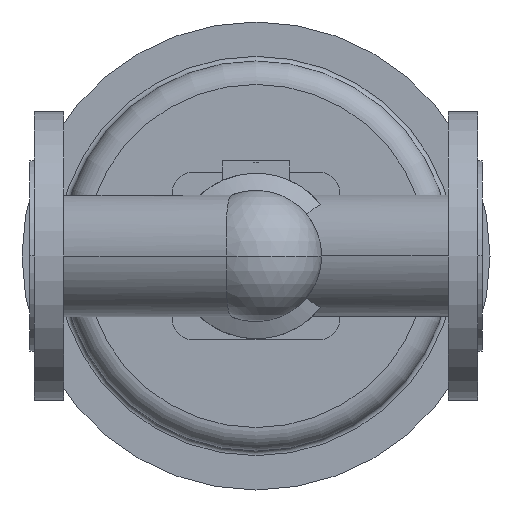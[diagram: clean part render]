
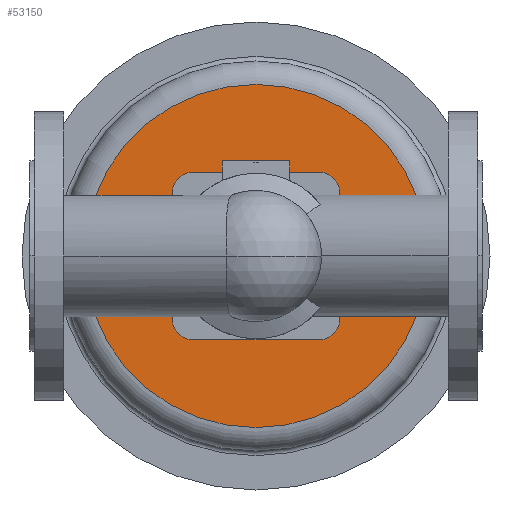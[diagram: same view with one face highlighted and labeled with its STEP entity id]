
A CAD part, front view. The second image highlights one B-rep face of the part: STEP entity #53150.
In plain terms, the highlighted planar face has unit normal (0, -1, 0).
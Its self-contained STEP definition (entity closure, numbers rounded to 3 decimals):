
#39520=CARTESIAN_POINT('',(255.,382.,0.));
#39530=VERTEX_POINT('',#39520);
#39620=CARTESIAN_POINT('',(35.,382.,0.));
#39630=VERTEX_POINT('',#39620);
#39660=CARTESIAN_POINT('',(145.,382.,0.));
#39670=DIRECTION('',(0.,1.,0.));
#39680=DIRECTION('',(1.,0.,0.));
#39690=AXIS2_PLACEMENT_3D('',#39660,#39670,#39680);
#39700=CIRCLE('',#39690,110.);
#39710=CARTESIAN_POINT('',(145.,382.,-110.));
#39720=VERTEX_POINT('',#39710);
#39730=EDGE_CURVE('',#39720,#39630,#39700,.T.);
#39750=EDGE_CURVE('',#39530,#39720,#39700,.T.);
#40330=CARTESIAN_POINT('',(210.,382.,0.));
#40340=VERTEX_POINT('',#40330);
#40370=CARTESIAN_POINT('',(195.,382.,0.));
#40380=DIRECTION('',(0.,1.,0.));
#40390=DIRECTION('',(1.,0.,0.));
#40400=AXIS2_PLACEMENT_3D('',#40370,#40380,#40390);
#40410=CIRCLE('',#40400,15.);
#40420=CARTESIAN_POINT('',(180.,382.,0.));
#40430=VERTEX_POINT('',#40420);
#40440=EDGE_CURVE('',#40340,#40430,#40410,.T.);
#40750=CARTESIAN_POINT('',(80.,382.,0.));
#40760=VERTEX_POINT('',#40750);
#40790=CARTESIAN_POINT('',(95.,382.,0.));
#40800=DIRECTION('',(0.,1.,0.));
#40810=DIRECTION('',(1.,0.,0.));
#40820=AXIS2_PLACEMENT_3D('',#40790,#40800,#40810);
#40830=CIRCLE('',#40820,15.);
#40840=CARTESIAN_POINT('',(110.,382.,0.));
#40850=VERTEX_POINT('',#40840);
#40860=EDGE_CURVE('',#40760,#40850,#40830,.T.);
#41150=CARTESIAN_POINT('',(126.55,382.,0.));
#41160=VERTEX_POINT('',#41150);
#41210=CARTESIAN_POINT('',(145.,382.,0.));
#41220=DIRECTION('',(0.,1.,0.));
#41230=DIRECTION('',(1.,0.,0.));
#41240=AXIS2_PLACEMENT_3D('',#41210,#41220,#41230);
#41250=CIRCLE('',#41240,18.45);
#41260=CARTESIAN_POINT('',(163.45,382.,0.));
#41270=VERTEX_POINT('',#41260);
#41280=EDGE_CURVE('',#41160,#41270,#41250,.T.);
#52890=CARTESIAN_POINT('',(200.,382.,0.));
#52900=DIRECTION('',(0.,-1.,0.));
#52910=DIRECTION('',(-1.,0.,0.));
#52920=AXIS2_PLACEMENT_3D('',#52890,#52900,#52910);
#52930=PLANE('',#52920);
#52940=EDGE_CURVE('',#41270,#41160,#41250,.T.);
#52950=ORIENTED_EDGE('',*,*,#52940,.T.);
#52960=ORIENTED_EDGE('',*,*,#41280,.T.);
#52970=EDGE_LOOP('',(#52960,#52950));
#52980=FACE_BOUND('',#52970,.T.);
#52990=EDGE_CURVE('',#40850,#40760,#40830,.T.);
#53000=ORIENTED_EDGE('',*,*,#52990,.T.);
#53010=ORIENTED_EDGE('',*,*,#40860,.T.);
#53020=EDGE_LOOP('',(#53010,#53000));
#53030=FACE_BOUND('',#53020,.T.);
#53040=EDGE_CURVE('',#40430,#40340,#40410,.T.);
#53050=ORIENTED_EDGE('',*,*,#53040,.T.);
#53060=ORIENTED_EDGE('',*,*,#40440,.T.);
#53070=EDGE_LOOP('',(#53060,#53050));
#53080=FACE_BOUND('',#53070,.T.);
#53090=ORIENTED_EDGE('',*,*,#39730,.F.);
#53100=EDGE_CURVE('',#39630,#39530,#39700,.T.);
#53110=ORIENTED_EDGE('',*,*,#53100,.F.);
#53120=ORIENTED_EDGE('',*,*,#39750,.F.);
#53130=EDGE_LOOP('',(#53120,#53110,#53090));
#53140=FACE_OUTER_BOUND('',#53130,.T.);
#53150=ADVANCED_FACE('',(#52980,#53030,#53080,#53140),#52930,.T.);
